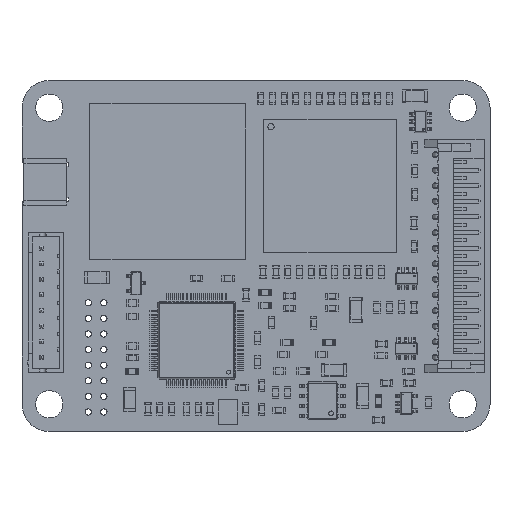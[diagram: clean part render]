
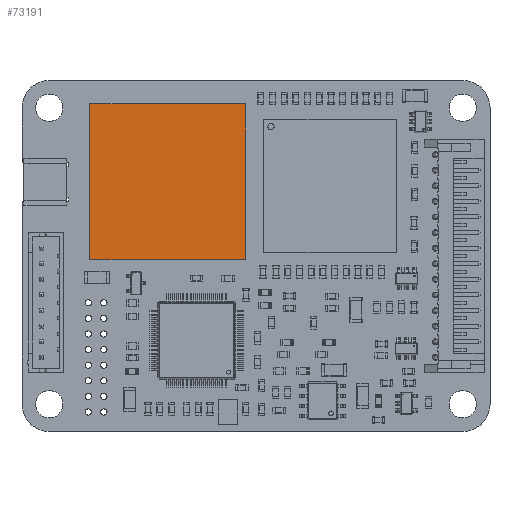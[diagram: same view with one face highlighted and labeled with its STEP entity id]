
A CAD part, top view. The second image highlights one B-rep face of the part: STEP entity #73191.
In plain terms, the highlighted planar face has unit normal (0, 0, 1).
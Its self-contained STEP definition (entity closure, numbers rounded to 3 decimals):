
#73062 = VERTEX_POINT('',#73063);
#73063 = CARTESIAN_POINT('',(-10.,10.,3.3));
#73069 = EDGE_CURVE('',#73062,#73070,#73072,.T.);
#73070 = VERTEX_POINT('',#73071);
#73071 = CARTESIAN_POINT('',(-10.,-10.,3.3));
#73072 = LINE('',#73073,#73074);
#73073 = CARTESIAN_POINT('',(-10.,10.,3.3));
#73074 = VECTOR('',#73075,1.);
#73075 = DIRECTION('',(0.,-1.,0.));
#73100 = EDGE_CURVE('',#73070,#73101,#73103,.T.);
#73101 = VERTEX_POINT('',#73102);
#73102 = CARTESIAN_POINT('',(10.,-10.,3.3));
#73103 = LINE('',#73104,#73105);
#73104 = CARTESIAN_POINT('',(-10.,-10.,3.3));
#73105 = VECTOR('',#73106,1.);
#73106 = DIRECTION('',(1.,0.,0.));
#73131 = EDGE_CURVE('',#73101,#73132,#73134,.T.);
#73132 = VERTEX_POINT('',#73133);
#73133 = CARTESIAN_POINT('',(10.,10.,3.3));
#73134 = LINE('',#73135,#73136);
#73135 = CARTESIAN_POINT('',(10.,-10.,3.3));
#73136 = VECTOR('',#73137,1.);
#73137 = DIRECTION('',(0.,1.,0.));
#73162 = EDGE_CURVE('',#73132,#73062,#73163,.T.);
#73163 = LINE('',#73164,#73165);
#73164 = CARTESIAN_POINT('',(10.,10.,3.3));
#73165 = VECTOR('',#73166,1.);
#73166 = DIRECTION('',(-1.,0.,0.));
#73191 = ADVANCED_FACE('',(#73192),#73198,.T.);
#73192 = FACE_BOUND('',#73193,.T.);
#73193 = EDGE_LOOP('',(#73194,#73195,#73196,#73197));
#73194 = ORIENTED_EDGE('',*,*,#73069,.T.);
#73195 = ORIENTED_EDGE('',*,*,#73100,.T.);
#73196 = ORIENTED_EDGE('',*,*,#73131,.T.);
#73197 = ORIENTED_EDGE('',*,*,#73162,.T.);
#73198 = PLANE('',#73199);
#73199 = AXIS2_PLACEMENT_3D('',#73200,#73201,#73202);
#73200 = CARTESIAN_POINT('',(0.,0.,3.3));
#73201 = DIRECTION('',(0.,0.,1.));
#73202 = DIRECTION('',(1.,0.,-0.));
